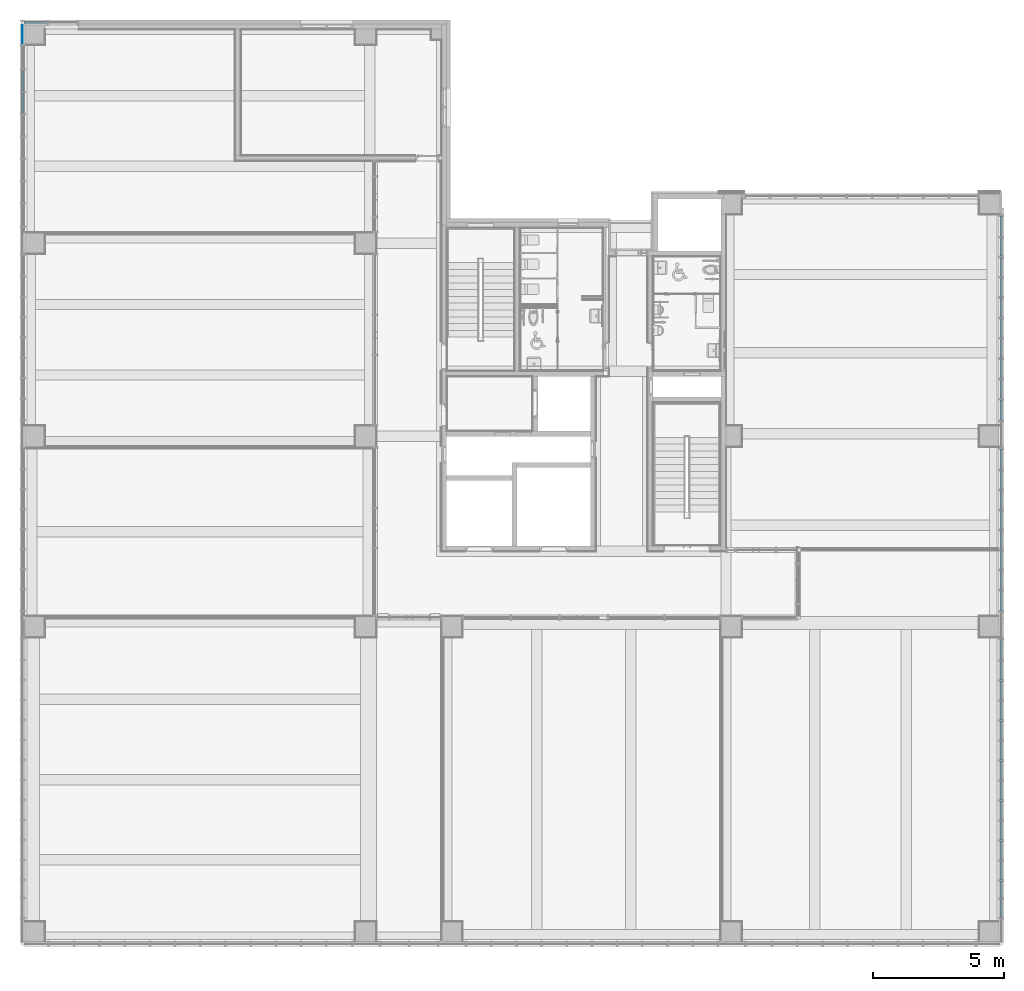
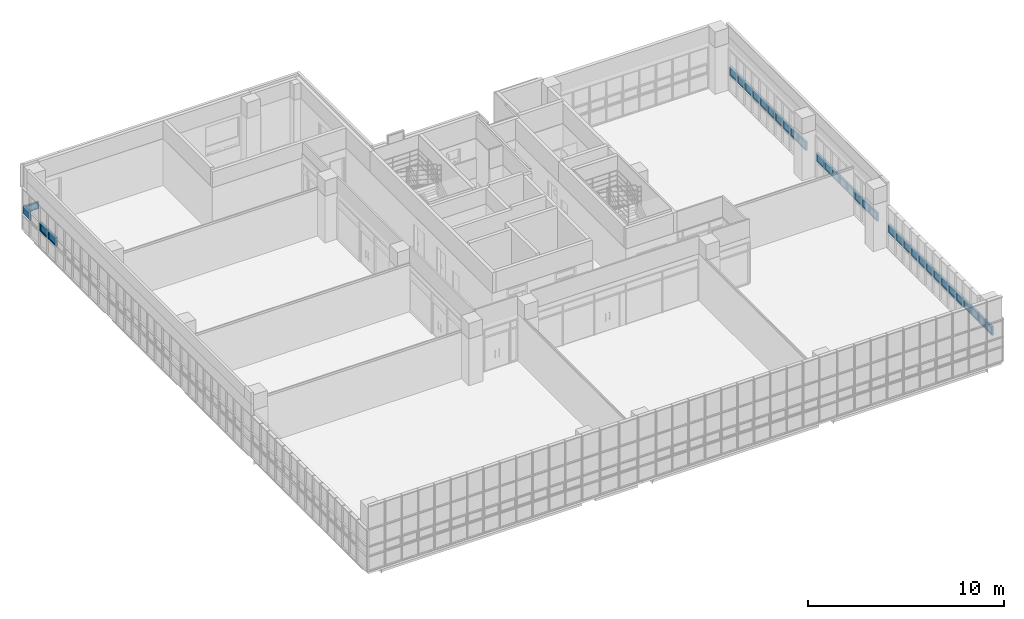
# One storey, part 42 of 76: 36 plates, 3 elements without a shape of their own.
"""IFC2X3 building model written with IfcOpenShell, lengths in millimetres."""

from ifc_helpers import new_model, entity, si_unit, converted_unit, derived_unit, direction, frame, origin, origin_2d_with_axis, place, context, subcontext, project, spatial, polyline, rectangle, outline, extrude, source, transform, mapped, material, material_list, type_object, type_shapes, element, aggregate, save


model = new_model("IFC2X3")

# Units and contexts
model_context = context("Model", 3, precision=0.01, world=origin(), true_north=direction((6.123031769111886e-17, 1.0)))
body_context = subcontext(model_context, "Body", "Model", "MODEL_VIEW")
ifc_project = project(units=[si_unit("LENGTHUNIT", "METRE", prefix="MILLI"), si_unit("AREAUNIT", "SQUARE_METRE"), si_unit("VOLUMEUNIT", "CUBIC_METRE"), converted_unit("PLANEANGLEUNIT", "DEGREE", entity("IfcRatioMeasure", 0.017453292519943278), si_unit("PLANEANGLEUNIT", "RADIAN"), dimensions=[0, 0, 0, 0, 0, 0, 0]), si_unit("MASSUNIT", "GRAM", prefix="KILO"), derived_unit("MASSDENSITYUNIT", [(si_unit("MASSUNIT", "GRAM", prefix="KILO"), 1), (si_unit("LENGTHUNIT", "METRE"), -3)]), derived_unit("MOMENTOFINERTIAUNIT", [(si_unit("LENGTHUNIT", "METRE"), 4)]), si_unit("TIMEUNIT", "SECOND"), si_unit("FREQUENCYUNIT", "HERTZ"), si_unit("THERMODYNAMICTEMPERATUREUNIT", "DEGREE_CELSIUS"), derived_unit("THERMALTRANSMITTANCEUNIT", [(si_unit("MASSUNIT", "GRAM", prefix="KILO"), 1), (si_unit("THERMODYNAMICTEMPERATUREUNIT", "KELVIN"), -1), (si_unit("TIMEUNIT", "SECOND"), -3)]), derived_unit("VOLUMETRICFLOWRATEUNIT", [(si_unit("LENGTHUNIT", "METRE"), 3), (si_unit("TIMEUNIT", "SECOND"), -1)]), derived_unit("MASSFLOWRATEUNIT", [(si_unit("MASSUNIT", "GRAM", prefix="KILO"), 1), (si_unit("TIMEUNIT", "SECOND"), -1)]), derived_unit("ROTATIONALFREQUENCYUNIT", [(si_unit("TIMEUNIT", "SECOND"), -1)]), si_unit("ELECTRICCURRENTUNIT", "AMPERE"), si_unit("ELECTRICVOLTAGEUNIT", "VOLT"), si_unit("POWERUNIT", "WATT"), si_unit("FORCEUNIT", "NEWTON", prefix="KILO"), si_unit("ILLUMINANCEUNIT", "LUX"), si_unit("LUMINOUSFLUXUNIT", "LUMEN"), si_unit("LUMINOUSINTENSITYUNIT", "CANDELA"), derived_unit("USERDEFINED", [(si_unit("MASSUNIT", "GRAM", prefix="KILO"), -1), (si_unit("LENGTHUNIT", "METRE"), -2), (si_unit("TIMEUNIT", "SECOND"), 3), (si_unit("LUMINOUSFLUXUNIT", "LUMEN"), 1)]), derived_unit("SOUNDPOWERUNIT", [(si_unit("MASSUNIT", "GRAM", prefix="KILO"), 1), (si_unit("LENGTHUNIT", "METRE"), 2), (si_unit("TIMEUNIT", "SECOND"), -3)]), derived_unit("SOUNDPRESSUREUNIT", [(si_unit("MASSUNIT", "GRAM", prefix="KILO"), 1), (si_unit("LENGTHUNIT", "METRE"), -1), (si_unit("TIMEUNIT", "SECOND"), -2)]), derived_unit("LINEARVELOCITYUNIT", [(si_unit("LENGTHUNIT", "METRE"), 1), (si_unit("TIMEUNIT", "SECOND"), -1)]), si_unit("PRESSUREUNIT", "PASCAL"), derived_unit("USERDEFINED", [(si_unit("LENGTHUNIT", "METRE"), -2), (si_unit("MASSUNIT", "GRAM", prefix="KILO"), 1), (si_unit("TIMEUNIT", "SECOND"), -2)]), derived_unit("LINEARFORCEUNIT", [(si_unit("MASSUNIT", "GRAM", prefix="KILO"), 1), (si_unit("LENGTHUNIT", "METRE"), 1), (si_unit("TIMEUNIT", "SECOND"), -2), (si_unit("LENGTHUNIT", "METRE"), -1)]), derived_unit("PLANARFORCEUNIT", [(si_unit("MASSUNIT", "GRAM", prefix="KILO"), 1), (si_unit("LENGTHUNIT", "METRE"), 1), (si_unit("TIMEUNIT", "SECOND"), -2), (si_unit("LENGTHUNIT", "METRE"), -2)])], contexts=[model_context])

# Site, building, storey
site_placement = place(None, frame((-14167.972527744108, -657.2125860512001, 0.0)))
site = spatial("IfcSite", under=ifc_project, at=site_placement, Name="Default", CompositionType="ELEMENT")
building_placement = place(site_placement, origin())
building = spatial("IfcBuilding", under=site, at=building_placement, Name="Sample Building", CompositionType="ELEMENT")
storey_placement = place(building_placement, frame((0.0, 0.0, 9300.0)))
storey = spatial("IfcBuildingStorey", under=building, at=storey_placement, Name="지상 3층", CompositionType="ELEMENT", Elevation=9300.000000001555)

# Curtain wall, plate
curtain_wall_type = type_object("IfcCurtainWallType", Name="커튼월:CW112-스테인리스 스틸 커튼월", PredefinedType="NOTDEFINED")
curtain_wall_1_placement = place(storey_placement, frame((0.0, 0.0, -9300.0)))
curtain_wall_1 = element("IfcCurtainWall", 1, at=curtain_wall_1_placement, inside=storey, type_object=curtain_wall_type, Name="커튼월:CW112-스테인리스 스틸 커튼월", ObjectType="커튼월:CW112-스테인리스 스틸 커튼월")
ifc_material_1 = material(Name="KBIMS-유리")
ifc_material_2 = material(Name="KBIMS-알루미늄")
ifc_material_list_1 = material_list([ifc_material_1, ifc_material_2])
ifc_material_list_2 = material_list([ifc_material_1, ifc_material_2])
plate_type_1 = type_object("IfcPlateType", Name="CW410-프로젝트 창:CW410-프로젝트 창 (하부개폐)", PredefinedType="CURTAIN_PANEL", material=ifc_material_list_2)
shared_shape_1 = source(origin(), body_context, "Body", "SweptSolid", [
    extrude(rectangle(XDim=23.999999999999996, YDim=774.6836271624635, at=origin_2d_with_axis()), frame((0.0, 0.04999999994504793, 50.0), z_axis=(0.0, 0.0, 1.0), x_axis=(0.0, 1.0, 0.0)), (0.0, 0.0, 1.0), 349.9999999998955),
    extrude(outline(polyline([(-437.3418135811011, -225.0), (437.3418135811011, -225.0), (437.3418135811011, 225.0), (-437.3418135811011, 225.0), (-437.3418135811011, -225.0)]), holes=[polyline([(-387.34181358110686, -175.0), (-387.3418135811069, 175.0), (387.34181358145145, 175.0), (387.34181358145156, -175.0), (-387.34181358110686, -175.0)])]), frame((0.0, -49.95000000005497, 225.0), z_axis=(0.0, 1.0, 0.0), x_axis=(1.0, 0.0, 0.0)), (0.0, 0.0, 1.0), 99.99999999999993),
])
type_shapes(plate_type_1, [shared_shape_1])
plate_1_placement = place(curtain_wall_1_placement, frame((14505.314268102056, 35807.1622951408, 10305.0)))
plate_1 = element("IfcPlate", 2, at=plate_1_placement, type_object=plate_type_1, material=ifc_material_list_1, Name="CW410-프로젝트 창:CW410-프로젝트 창 (하부개폐)", ObjectType="CW410-프로젝트 창:CW410-프로젝트 창 (하부개폐)", context=body_context, shape_type="MappedRepresentation", body=[
    mapped(shared_shape_1, transform((0.0, 0.0, 0.0), scale=1.0)),
])
aggregate(curtain_wall_1, [plate_1])

# Curtain wall, plates
curtain_wall_2_placement = place(storey_placement, frame((0.0, 0.0, -9300.0)))
curtain_wall_2 = element("IfcCurtainWall", 3, at=curtain_wall_2_placement, inside=storey, type_object=curtain_wall_type, Name="커튼월:CW112-스테인리스 스틸 커튼월", ObjectType="커튼월:CW112-스테인리스 스틸 커튼월")
ifc_material_3 = material(Name="KBIMS-로이유리(코팅)")
plate_type_2 = type_object("IfcPlateType", Name="CW300-THK24.Low-e coating glass:CW300-THK24.Low-e coating glass", PredefinedType="CURTAIN_PANEL", material=ifc_material_3)
shared_shape_2 = source(origin(), body_context, "Body", "SweptSolid", [
    extrude(rectangle(XDim=778.6554851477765, YDim=24.000000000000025, at=origin_2d_with_axis()), frame((0.0, 0.0, 0.0), z_axis=(0.0, 0.0, 1.0), x_axis=(-1.0, 0.0, 0.0)), (0.0, 0.0, 1.0), 549.9999999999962),
])
type_shapes(plate_type_2, [shared_shape_2])
plate_2_placement = place(curtain_wall_2_placement, frame((14018.58790484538, 35368.14544966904, 10355.0), z_axis=(0.0, 0.0, 1.0), x_axis=(0.0, -1.0, 0.0)))
plate_2 = element("IfcPlate", 4, at=plate_2_placement, type_object=plate_type_2, material=ifc_material_3, Name="CW300-THK24.Low-e coating glass:CW300-THK24.Low-e coating glass", ObjectType="CW300-THK24.Low-e coating glass:CW300-THK24.Low-e coating glass", context=body_context, shape_type="MappedRepresentation", body=[
    mapped(shared_shape_2, transform((0.0, 0.0, 0.0), scale=1.0)),
])
ifc_material_list_3 = material_list([ifc_material_1, ifc_material_2])
ifc_material_list_4 = material_list([ifc_material_1, ifc_material_2])
plate_type_3 = type_object("IfcPlateType", Name="CW410-프로젝트 창:CW410-프로젝트 창 (하부개폐)", PredefinedType="CURTAIN_PANEL", material=ifc_material_list_4)
shared_shape_3 = source(origin(), body_context, "Body", "SweptSolid", [
    extrude(rectangle(XDim=704.0000000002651, YDim=23.999999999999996, at=origin_2d_with_axis()), frame((0.0, -0.04999999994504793, 50.0), z_axis=(0.0, 0.0, 1.0), x_axis=(-1.0, 0.0, 0.0)), (0.0, 0.0, 1.0), 450.0000000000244),
    extrude(outline(polyline([(-402.0, -275.0), (402.0, -275.0), (402.0, 275.0), (-402.0, 275.0), (-402.0, -275.0)]), holes=[polyline([(-352.0, -225.0), (-352.0, 225.0), (352.0, 225.0), (352.0, -225.0), (-352.0, -225.0)])]), frame((0.0, -50.04999999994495, 275.0), z_axis=(0.0, 1.0, 0.0), x_axis=(1.0, 0.0, 0.0)), (0.0, 0.0, 1.0), 99.99999999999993),
])
type_shapes(plate_type_3, [shared_shape_3])
plate_3_placement = place(curtain_wall_2_placement, frame((14018.587904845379, 33582.81770709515, 10355.0), z_axis=(0.0, 0.0, 1.0), x_axis=(0.0, -1.0, 0.0)))
plate_3 = element("IfcPlate", 5, at=plate_3_placement, type_object=plate_type_3, material=ifc_material_list_3, Name="CW410-프로젝트 창:CW410-프로젝트 창 (하부개폐)", ObjectType="CW410-프로젝트 창:CW410-프로젝트 창 (하부개폐)", context=body_context, shape_type="MappedRepresentation", body=[
    mapped(shared_shape_3, transform((0.0, 0.0, 0.0), scale=1.0)),
])
ifc_material_list_5 = material_list([ifc_material_1, ifc_material_2])
plate_4_placement = place(curtain_wall_2_placement, frame((14018.587904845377, 32728.817707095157, 10355.0), z_axis=(0.0, 0.0, 1.0), x_axis=(0.0, -1.0, 0.0)))
plate_4 = element("IfcPlate", 6, at=plate_4_placement, type_object=plate_type_3, material=ifc_material_list_5, Name="CW410-프로젝트 창:CW410-프로젝트 창 (하부개폐)", ObjectType="CW410-프로젝트 창:CW410-프로젝트 창 (하부개폐)", context=body_context, shape_type="MappedRepresentation", body=[
    mapped(shared_shape_3, transform((0.0, 0.0, 0.0), scale=1.0)),
])
aggregate(curtain_wall_2, [plate_2, plate_3, plate_4])

curtain_wall_3_placement = place(storey_placement, frame((0.0, 0.0, -9300.0)))
curtain_wall_3 = element("IfcCurtainWall", 7, at=curtain_wall_3_placement, inside=storey, type_object=curtain_wall_type, Name="커튼월:CW112-스테인리스 스틸 커튼월", ObjectType="커튼월:CW112-스테인리스 스틸 커튼월")
ifc_material_list_6 = material_list([ifc_material_1, ifc_material_2])
ifc_material_list_7 = material_list([ifc_material_1, ifc_material_2])
plate_type_4 = type_object("IfcPlateType", Name="CW410-프로젝트 창:CW410-프로젝트 창 (하부개폐)", PredefinedType="CURTAIN_PANEL", material=ifc_material_list_7)
shared_shape_4 = source(origin(), body_context, "Body", "SweptSolid", [
    extrude(rectangle(XDim=23.999999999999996, YDim=683.3946888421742, at=origin_2d_with_axis()), frame((0.0, 0.04999999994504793, 50.0), z_axis=(0.0, 0.0, 1.0), x_axis=(0.0, 1.0, 0.0)), (0.0, 0.0, 1.0), 450.0000000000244),
    extrude(outline(polyline([(-391.6973444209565, -275.0), (391.6973444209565, -275.0), (391.6973444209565, 275.0), (-391.6973444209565, 275.0), (-391.6973444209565, -275.0)]), holes=[polyline([(-341.6973444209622, -225.0), (-341.6973444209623, 225.0), (341.6973444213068, 225.0), (341.6973444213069, -225.0), (-341.6973444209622, -225.0)])]), frame((0.0, -49.95000000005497, 275.0), z_axis=(0.0, 1.0, 0.0), x_axis=(1.0, 0.0, 0.0)), (0.0, 0.0, 1.0), 99.99999999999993),
])
type_shapes(plate_type_4, [shared_shape_4])
plate_5_placement = place(curtain_wall_3_placement, frame((51517.96382893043, 27997.515051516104, 10355.0), z_axis=(0.0, 0.0, 1.0), x_axis=(0.0, -1.0, 0.0)))
plate_5 = element("IfcPlate", 8, at=plate_5_placement, type_object=plate_type_4, material=ifc_material_list_6, Name="CW410-프로젝트 창:CW410-프로젝트 창 (하부개폐)", ObjectType="CW410-프로젝트 창:CW410-프로젝트 창 (하부개폐)", context=body_context, shape_type="MappedRepresentation", body=[
    mapped(shared_shape_4, transform((0.0, 0.0, 0.0), scale=1.0)),
])
ifc_material_list_8 = material_list([ifc_material_1, ifc_material_2])
ifc_material_list_9 = material_list([ifc_material_1, ifc_material_2])
plate_type_5 = type_object("IfcPlateType", Name="CW410-프로젝트 창:CW410-프로젝트 창 (하부개폐)", PredefinedType="CURTAIN_PANEL", material=ifc_material_list_9)
shared_shape_5 = source(origin(), body_context, "Body", "SweptSolid", [
    extrude(rectangle(XDim=23.999999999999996, YDim=600.0000000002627, at=origin_2d_with_axis()), frame((0.0, 0.04999999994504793, 50.0), z_axis=(0.0, 0.0, 1.0), x_axis=(0.0, 1.0, 0.0)), (0.0, 0.0, 1.0), 450.0000000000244),
    extrude(outline(polyline([(-350.0, -275.0), (350.0, -275.0), (350.0, 275.0), (-350.0, 275.0), (-350.0, -275.0)]), holes=[polyline([(-300.0, -225.0), (-300.0, 225.0), (300.0, 225.0), (300.0, -225.0), (-300.0, -225.0)])]), frame((0.0, -49.95000000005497, 275.0), z_axis=(0.0, 1.0, 0.0), x_axis=(1.0, 0.0, 0.0)), (0.0, 0.0, 1.0), 99.99999999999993),
])
type_shapes(plate_type_5, [shared_shape_5])
plate_6_placement = place(curtain_wall_3_placement, frame((51517.96382893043, 27205.817707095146, 10355.0), z_axis=(0.0, 0.0, 1.0), x_axis=(0.0, -1.0, 0.0)))
plate_6 = element("IfcPlate", 9, at=plate_6_placement, type_object=plate_type_5, material=ifc_material_list_8, Name="CW410-프로젝트 창:CW410-프로젝트 창 (하부개폐)", ObjectType="CW410-프로젝트 창:CW410-프로젝트 창 (하부개폐)", context=body_context, shape_type="MappedRepresentation", body=[
    mapped(shared_shape_5, transform((0.0, 0.0, 0.0), scale=1.0)),
])
ifc_material_list_10 = material_list([ifc_material_1, ifc_material_2])
ifc_material_list_11 = material_list([ifc_material_1, ifc_material_2])
plate_type_6 = type_object("IfcPlateType", Name="CW410-프로젝트 창:CW410-프로젝트 창 (하부개폐)", PredefinedType="CURTAIN_PANEL", material=ifc_material_list_11)
shared_shape_6 = source(origin(), body_context, "Body", "SweptSolid", [
    extrude(rectangle(XDim=23.999999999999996, YDim=629.0000000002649, at=origin_2d_with_axis()), frame((0.0, 0.04999999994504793, 50.0), z_axis=(0.0, 0.0, 1.0), x_axis=(0.0, 1.0, 0.0)), (0.0, 0.0, 1.0), 450.0000000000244),
    extrude(outline(polyline([(-364.5000000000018, -275.0), (364.5000000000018, -275.0), (364.5000000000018, 275.0), (-364.5000000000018, 275.0), (-364.5000000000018, -275.0)]), holes=[polyline([(-314.50000000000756, -225.0), (-314.5000000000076, 225.0), (314.5000000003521, 225.0), (314.50000000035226, -225.0), (-314.50000000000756, -225.0)])]), frame((0.0, -49.95000000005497, 275.0), z_axis=(0.0, 1.0, 0.0), x_axis=(1.0, 0.0, 0.0)), (0.0, 0.0, 1.0), 99.99999999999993),
])
type_shapes(plate_type_6, [shared_shape_6])
plate_7_placement = place(curtain_wall_3_placement, frame((51517.96382893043, 26441.317707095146, 10355.0), z_axis=(0.0, 0.0, 1.0), x_axis=(0.0, -1.0, 0.0)))
plate_7 = element("IfcPlate", 10, at=plate_7_placement, type_object=plate_type_6, material=ifc_material_list_10, Name="CW410-프로젝트 창:CW410-프로젝트 창 (하부개폐)", ObjectType="CW410-프로젝트 창:CW410-프로젝트 창 (하부개폐)", context=body_context, shape_type="MappedRepresentation", body=[
    mapped(shared_shape_6, transform((0.0, 0.0, 0.0), scale=1.0)),
])
ifc_material_list_12 = material_list([ifc_material_1, ifc_material_2])
plate_8_placement = place(curtain_wall_3_placement, frame((51517.96382893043, 25662.31770709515, 10355.0), z_axis=(0.0, 0.0, 1.0), x_axis=(0.0, -1.0, 0.0)))
plate_8 = element("IfcPlate", 11, at=plate_8_placement, type_object=plate_type_6, material=ifc_material_list_12, Name="CW410-프로젝트 창:CW410-프로젝트 창 (하부개폐)", ObjectType="CW410-프로젝트 창:CW410-프로젝트 창 (하부개폐)", context=body_context, shape_type="MappedRepresentation", body=[
    mapped(shared_shape_6, transform((0.0, 0.0, 0.0), scale=1.0)),
])
ifc_material_list_13 = material_list([ifc_material_1, ifc_material_2])
plate_9_placement = place(curtain_wall_3_placement, frame((51517.96382893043, 24883.317707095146, 10355.0), z_axis=(0.0, 0.0, 1.0), x_axis=(0.0, -1.0, 0.0)))
plate_9 = element("IfcPlate", 12, at=plate_9_placement, type_object=plate_type_6, material=ifc_material_list_13, Name="CW410-프로젝트 창:CW410-프로젝트 창 (하부개폐)", ObjectType="CW410-프로젝트 창:CW410-프로젝트 창 (하부개폐)", context=body_context, shape_type="MappedRepresentation", body=[
    mapped(shared_shape_6, transform((0.0, 0.0, 0.0), scale=1.0)),
])
ifc_material_list_14 = material_list([ifc_material_1, ifc_material_2])
plate_10_placement = place(curtain_wall_3_placement, frame((51517.96382893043, 24104.31770709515, 10355.0), z_axis=(0.0, 0.0, 1.0), x_axis=(0.0, -1.0, 0.0)))
plate_10 = element("IfcPlate", 13, at=plate_10_placement, type_object=plate_type_6, material=ifc_material_list_14, Name="CW410-프로젝트 창:CW410-프로젝트 창 (하부개폐)", ObjectType="CW410-프로젝트 창:CW410-프로젝트 창 (하부개폐)", context=body_context, shape_type="MappedRepresentation", body=[
    mapped(shared_shape_6, transform((0.0, 0.0, 0.0), scale=1.0)),
])
ifc_material_list_15 = material_list([ifc_material_1, ifc_material_2])
plate_11_placement = place(curtain_wall_3_placement, frame((51517.96382893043, 23325.317707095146, 10355.0), z_axis=(0.0, 0.0, 1.0), x_axis=(0.0, -1.0, 0.0)))
plate_11 = element("IfcPlate", 14, at=plate_11_placement, type_object=plate_type_6, material=ifc_material_list_15, Name="CW410-프로젝트 창:CW410-프로젝트 창 (하부개폐)", ObjectType="CW410-프로젝트 창:CW410-프로젝트 창 (하부개폐)", context=body_context, shape_type="MappedRepresentation", body=[
    mapped(shared_shape_6, transform((0.0, 0.0, 0.0), scale=1.0)),
])
ifc_material_list_16 = material_list([ifc_material_1, ifc_material_2])
plate_12_placement = place(curtain_wall_3_placement, frame((51517.963828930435, 22546.31770709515, 10355.0), z_axis=(0.0, 0.0, 1.0), x_axis=(0.0, -1.0, 0.0)))
plate_12 = element("IfcPlate", 15, at=plate_12_placement, type_object=plate_type_6, material=ifc_material_list_16, Name="CW410-프로젝트 창:CW410-프로젝트 창 (하부개폐)", ObjectType="CW410-프로젝트 창:CW410-프로젝트 창 (하부개폐)", context=body_context, shape_type="MappedRepresentation", body=[
    mapped(shared_shape_6, transform((0.0, 0.0, 0.0), scale=1.0)),
])
ifc_material_list_17 = material_list([ifc_material_1, ifc_material_2])
plate_13_placement = place(curtain_wall_3_placement, frame((51517.963828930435, 21767.317707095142, 10355.0), z_axis=(0.0, 0.0, 1.0), x_axis=(0.0, -1.0, 0.0)))
plate_13 = element("IfcPlate", 16, at=plate_13_placement, type_object=plate_type_6, material=ifc_material_list_17, Name="CW410-프로젝트 창:CW410-프로젝트 창 (하부개폐)", ObjectType="CW410-프로젝트 창:CW410-프로젝트 창 (하부개폐)", context=body_context, shape_type="MappedRepresentation", body=[
    mapped(shared_shape_6, transform((0.0, 0.0, 0.0), scale=1.0)),
])
ifc_material_list_18 = material_list([ifc_material_1, ifc_material_2])
ifc_material_list_19 = material_list([ifc_material_1, ifc_material_2])
plate_type_7 = type_object("IfcPlateType", Name="CW410-프로젝트 창:CW410-프로젝트 창 (하부개폐)", PredefinedType="CURTAIN_PANEL", material=ifc_material_list_19)
shared_shape_7 = source(origin(), body_context, "Body", "SweptSolid", [
    extrude(rectangle(XDim=23.999999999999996, YDim=689.0000000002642, at=origin_2d_with_axis()), frame((0.0, 0.04999999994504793, 50.0), z_axis=(0.0, 0.0, 1.0), x_axis=(0.0, 1.0, 0.0)), (0.0, 0.0, 1.0), 450.0000000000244),
    extrude(outline(polyline([(-394.5000000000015, -275.0), (394.5000000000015, -275.0), (394.5000000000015, 275.0), (-394.5000000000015, 275.0), (-394.5000000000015, -275.0)]), holes=[polyline([(-344.5000000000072, -225.0), (-344.5000000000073, 225.0), (344.5000000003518, 225.0), (344.5000000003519, -225.0), (-344.5000000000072, -225.0)])]), frame((0.0, -49.95000000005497, 275.0), z_axis=(0.0, 1.0, 0.0), x_axis=(1.0, 0.0, 0.0)), (0.0, 0.0, 1.0), 99.99999999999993),
])
type_shapes(plate_type_7, [shared_shape_7])
plate_14_placement = place(curtain_wall_3_placement, frame((51517.963828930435, 20958.317707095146, 10355.0), z_axis=(0.0, 0.0, 1.0), x_axis=(0.0, -1.0, 0.0)))
plate_14 = element("IfcPlate", 17, at=plate_14_placement, type_object=plate_type_7, material=ifc_material_list_18, Name="CW410-프로젝트 창:CW410-프로젝트 창 (하부개폐)", ObjectType="CW410-프로젝트 창:CW410-프로젝트 창 (하부개폐)", context=body_context, shape_type="MappedRepresentation", body=[
    mapped(shared_shape_7, transform((0.0, 0.0, 0.0), scale=1.0)),
])
ifc_material_list_20 = material_list([ifc_material_1, ifc_material_2])
ifc_material_list_21 = material_list([ifc_material_1, ifc_material_2])
plate_type_8 = type_object("IfcPlateType", Name="CW410-프로젝트 창:CW410-프로젝트 창 (하부개폐)", PredefinedType="CURTAIN_PANEL", material=ifc_material_list_21)
shared_shape_8 = source(origin(), body_context, "Body", "SweptSolid", [
    extrude(rectangle(XDim=23.999999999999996, YDim=676.0000000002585, at=origin_2d_with_axis()), frame((0.0, 0.04999999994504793, 50.0), z_axis=(0.0, 0.0, 1.0), x_axis=(0.0, 1.0, 0.0)), (0.0, 0.0, 1.0), 450.0000000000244),
    extrude(outline(polyline([(-388.0, -275.0), (388.0, -275.0), (388.0, 275.0), (-388.0, 275.0), (-388.0, -275.0)]), holes=[polyline([(-338.0, -225.0), (-338.0, 225.0), (338.0, 225.0), (338.0, -225.0), (-338.0, -225.0)])]), frame((0.0, -49.95000000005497, 275.0), z_axis=(0.0, 1.0, 0.0), x_axis=(1.0, 0.0, 0.0)), (0.0, 0.0, 1.0), 99.99999999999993),
])
type_shapes(plate_type_8, [shared_shape_8])
plate_15_placement = place(curtain_wall_3_placement, frame((51517.963828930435, 19075.817707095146, 10355.0), z_axis=(0.0, 0.0, 1.0), x_axis=(0.0, -1.0, 0.0)))
plate_15 = element("IfcPlate", 18, at=plate_15_placement, type_object=plate_type_8, material=ifc_material_list_20, Name="CW410-프로젝트 창:CW410-프로젝트 창 (하부개폐)", ObjectType="CW410-프로젝트 창:CW410-프로젝트 창 (하부개폐)", context=body_context, shape_type="MappedRepresentation", body=[
    mapped(shared_shape_8, transform((0.0, 0.0, 0.0), scale=1.0)),
])
ifc_material_list_22 = material_list([ifc_material_1, ifc_material_2])
plate_16_placement = place(curtain_wall_3_placement, frame((51517.96382893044, 13653.817707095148, 10355.0), z_axis=(0.0, 0.0, 1.0), x_axis=(0.0, -1.0, 0.0)))
plate_16 = element("IfcPlate", 19, at=plate_16_placement, type_object=plate_type_8, material=ifc_material_list_22, Name="CW410-프로젝트 창:CW410-프로젝트 창 (하부개폐)", ObjectType="CW410-프로젝트 창:CW410-프로젝트 창 (하부개폐)", context=body_context, shape_type="MappedRepresentation", body=[
    mapped(shared_shape_8, transform((0.0, 0.0, 0.0), scale=1.0)),
])
ifc_material_list_23 = material_list([ifc_material_1, ifc_material_2])
plate_17_placement = place(curtain_wall_3_placement, frame((51517.96382893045, 11777.81770709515, 10355.0), z_axis=(0.0, 0.0, 1.0), x_axis=(0.0, -1.0, 0.0)))
plate_17 = element("IfcPlate", 20, at=plate_17_placement, type_object=plate_type_8, material=ifc_material_list_23, Name="CW410-프로젝트 창:CW410-프로젝트 창 (하부개폐)", ObjectType="CW410-프로젝트 창:CW410-프로젝트 창 (하부개폐)", context=body_context, shape_type="MappedRepresentation", body=[
    mapped(shared_shape_8, transform((0.0, 0.0, 0.0), scale=1.0)),
])
ifc_material_list_24 = material_list([ifc_material_1, ifc_material_2])
ifc_material_list_25 = material_list([ifc_material_1, ifc_material_2])
plate_type_9 = type_object("IfcPlateType", Name="CW410-프로젝트 창:CW410-프로젝트 창 (하부개폐)", PredefinedType="CURTAIN_PANEL", material=ifc_material_list_25)
shared_shape_9 = source(origin(), body_context, "Body", "SweptSolid", [
    extrude(rectangle(XDim=23.999999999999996, YDim=616.0000000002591, at=origin_2d_with_axis()), frame((0.0, 0.04999999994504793, 50.0), z_axis=(0.0, 0.0, 1.0), x_axis=(0.0, 1.0, 0.0)), (0.0, 0.0, 1.0), 450.0000000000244),
    extrude(outline(polyline([(-358.0, -275.0), (358.0, -275.0), (358.0, 275.0), (-358.0, 275.0), (-358.0, -275.0)]), holes=[polyline([(-308.0, -225.0), (-308.0, 225.0), (308.0, 225.0), (308.0, -225.0), (-308.0, -225.0)])]), frame((0.0, -49.95000000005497, 275.0), z_axis=(0.0, 1.0, 0.0), x_axis=(1.0, 0.0, 0.0)), (0.0, 0.0, 1.0), 99.99999999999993),
])
type_shapes(plate_type_9, [shared_shape_9])
plate_18_placement = place(curtain_wall_3_placement, frame((51517.963828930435, 18279.817707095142, 10355.0), z_axis=(0.0, 0.0, 1.0), x_axis=(0.0, -1.0, 0.0)))
plate_18 = element("IfcPlate", 21, at=plate_18_placement, type_object=plate_type_9, material=ifc_material_list_24, Name="CW410-프로젝트 창:CW410-프로젝트 창 (하부개폐)", ObjectType="CW410-프로젝트 창:CW410-프로젝트 창 (하부개폐)", context=body_context, shape_type="MappedRepresentation", body=[
    mapped(shared_shape_9, transform((0.0, 0.0, 0.0), scale=1.0)),
])
ifc_material_list_26 = material_list([ifc_material_1, ifc_material_2])
plate_19_placement = place(curtain_wall_3_placement, frame((51517.963828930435, 17513.817707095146, 10355.0), z_axis=(0.0, 0.0, 1.0), x_axis=(0.0, -1.0, 0.0)))
plate_19 = element("IfcPlate", 22, at=plate_19_placement, type_object=plate_type_9, material=ifc_material_list_26, Name="CW410-프로젝트 창:CW410-프로젝트 창 (하부개폐)", ObjectType="CW410-프로젝트 창:CW410-프로젝트 창 (하부개폐)", context=body_context, shape_type="MappedRepresentation", body=[
    mapped(shared_shape_9, transform((0.0, 0.0, 0.0), scale=1.0)),
])
ifc_material_list_27 = material_list([ifc_material_1, ifc_material_2])
plate_20_placement = place(curtain_wall_3_placement, frame((51517.96382893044, 16747.817707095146, 10355.0), z_axis=(0.0, 0.0, 1.0), x_axis=(0.0, -1.0, 0.0)))
plate_20 = element("IfcPlate", 23, at=plate_20_placement, type_object=plate_type_9, material=ifc_material_list_27, Name="CW410-프로젝트 창:CW410-프로젝트 창 (하부개폐)", ObjectType="CW410-프로젝트 창:CW410-프로젝트 창 (하부개폐)", context=body_context, shape_type="MappedRepresentation", body=[
    mapped(shared_shape_9, transform((0.0, 0.0, 0.0), scale=1.0)),
])
ifc_material_list_28 = material_list([ifc_material_1, ifc_material_2])
plate_21_placement = place(curtain_wall_3_placement, frame((51517.96382893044, 15981.817707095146, 10355.0), z_axis=(0.0, 0.0, 1.0), x_axis=(0.0, -1.0, 0.0)))
plate_21 = element("IfcPlate", 24, at=plate_21_placement, type_object=plate_type_9, material=ifc_material_list_28, Name="CW410-프로젝트 창:CW410-프로젝트 창 (하부개폐)", ObjectType="CW410-프로젝트 창:CW410-프로젝트 창 (하부개폐)", context=body_context, shape_type="MappedRepresentation", body=[
    mapped(shared_shape_9, transform((0.0, 0.0, 0.0), scale=1.0)),
])
ifc_material_list_29 = material_list([ifc_material_1, ifc_material_2])
plate_22_placement = place(curtain_wall_3_placement, frame((51517.96382893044, 15215.817707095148, 10355.0), z_axis=(0.0, 0.0, 1.0), x_axis=(0.0, -1.0, 0.0)))
plate_22 = element("IfcPlate", 25, at=plate_22_placement, type_object=plate_type_9, material=ifc_material_list_29, Name="CW410-프로젝트 창:CW410-프로젝트 창 (하부개폐)", ObjectType="CW410-프로젝트 창:CW410-프로젝트 창 (하부개폐)", context=body_context, shape_type="MappedRepresentation", body=[
    mapped(shared_shape_9, transform((0.0, 0.0, 0.0), scale=1.0)),
])
ifc_material_list_30 = material_list([ifc_material_1, ifc_material_2])
plate_23_placement = place(curtain_wall_3_placement, frame((51517.96382893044, 14449.817707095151, 10355.0), z_axis=(0.0, 0.0, 1.0), x_axis=(0.0, -1.0, 0.0)))
plate_23 = element("IfcPlate", 26, at=plate_23_placement, type_object=plate_type_9, material=ifc_material_list_30, Name="CW410-프로젝트 창:CW410-프로젝트 창 (하부개폐)", ObjectType="CW410-프로젝트 창:CW410-프로젝트 창 (하부개폐)", context=body_context, shape_type="MappedRepresentation", body=[
    mapped(shared_shape_9, transform((0.0, 0.0, 0.0), scale=1.0)),
])
ifc_material_list_31 = material_list([ifc_material_1, ifc_material_2])
plate_24_placement = place(curtain_wall_3_placement, frame((51517.96382893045, 10981.817707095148, 10355.0), z_axis=(0.0, 0.0, 1.0), x_axis=(0.0, -1.0, 0.0)))
plate_24 = element("IfcPlate", 27, at=plate_24_placement, type_object=plate_type_9, material=ifc_material_list_31, Name="CW410-프로젝트 창:CW410-프로젝트 창 (하부개폐)", ObjectType="CW410-프로젝트 창:CW410-프로젝트 창 (하부개폐)", context=body_context, shape_type="MappedRepresentation", body=[
    mapped(shared_shape_9, transform((0.0, 0.0, 0.0), scale=1.0)),
])
ifc_material_list_32 = material_list([ifc_material_1, ifc_material_2])
plate_25_placement = place(curtain_wall_3_placement, frame((51517.96382893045, 10215.81770709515, 10355.0), z_axis=(0.0, 0.0, 1.0), x_axis=(0.0, -1.0, 0.0)))
plate_25 = element("IfcPlate", 28, at=plate_25_placement, type_object=plate_type_9, material=ifc_material_list_32, Name="CW410-프로젝트 창:CW410-프로젝트 창 (하부개폐)", ObjectType="CW410-프로젝트 창:CW410-프로젝트 창 (하부개폐)", context=body_context, shape_type="MappedRepresentation", body=[
    mapped(shared_shape_9, transform((0.0, 0.0, 0.0), scale=1.0)),
])
ifc_material_list_33 = material_list([ifc_material_1, ifc_material_2])
plate_26_placement = place(curtain_wall_3_placement, frame((51517.96382893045, 9449.81770709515, 10355.0), z_axis=(0.0, 0.0, 1.0), x_axis=(0.0, -1.0, 0.0)))
plate_26 = element("IfcPlate", 29, at=plate_26_placement, type_object=plate_type_9, material=ifc_material_list_33, Name="CW410-프로젝트 창:CW410-프로젝트 창 (하부개폐)", ObjectType="CW410-프로젝트 창:CW410-프로젝트 창 (하부개폐)", context=body_context, shape_type="MappedRepresentation", body=[
    mapped(shared_shape_9, transform((0.0, 0.0, 0.0), scale=1.0)),
])
ifc_material_list_34 = material_list([ifc_material_1, ifc_material_2])
plate_27_placement = place(curtain_wall_3_placement, frame((51517.96382893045, 8683.817707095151, 10355.0), z_axis=(0.0, 0.0, 1.0), x_axis=(0.0, -1.0, 0.0)))
plate_27 = element("IfcPlate", 30, at=plate_27_placement, type_object=plate_type_9, material=ifc_material_list_34, Name="CW410-프로젝트 창:CW410-프로젝트 창 (하부개폐)", ObjectType="CW410-프로젝트 창:CW410-프로젝트 창 (하부개폐)", context=body_context, shape_type="MappedRepresentation", body=[
    mapped(shared_shape_9, transform((0.0, 0.0, 0.0), scale=1.0)),
])
ifc_material_list_35 = material_list([ifc_material_1, ifc_material_2])
plate_28_placement = place(curtain_wall_3_placement, frame((51517.96382893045, 7917.817707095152, 10355.0), z_axis=(0.0, 0.0, 1.0), x_axis=(0.0, -1.0, 0.0)))
plate_28 = element("IfcPlate", 31, at=plate_28_placement, type_object=plate_type_9, material=ifc_material_list_35, Name="CW410-프로젝트 창:CW410-프로젝트 창 (하부개폐)", ObjectType="CW410-프로젝트 창:CW410-프로젝트 창 (하부개폐)", context=body_context, shape_type="MappedRepresentation", body=[
    mapped(shared_shape_9, transform((0.0, 0.0, 0.0), scale=1.0)),
])
ifc_material_list_36 = material_list([ifc_material_1, ifc_material_2])
plate_29_placement = place(curtain_wall_3_placement, frame((51517.96382893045, 7151.817707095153, 10355.0), z_axis=(0.0, 0.0, 1.0), x_axis=(0.0, -1.0, 0.0)))
plate_29 = element("IfcPlate", 32, at=plate_29_placement, type_object=plate_type_9, material=ifc_material_list_36, Name="CW410-프로젝트 창:CW410-프로젝트 창 (하부개폐)", ObjectType="CW410-프로젝트 창:CW410-프로젝트 창 (하부개폐)", context=body_context, shape_type="MappedRepresentation", body=[
    mapped(shared_shape_9, transform((0.0, 0.0, 0.0), scale=1.0)),
])
ifc_material_list_37 = material_list([ifc_material_1, ifc_material_2])
plate_30_placement = place(curtain_wall_3_placement, frame((51517.96382893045, 6385.817707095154, 10355.0), z_axis=(0.0, 0.0, 1.0), x_axis=(0.0, -1.0, 0.0)))
plate_30 = element("IfcPlate", 33, at=plate_30_placement, type_object=plate_type_9, material=ifc_material_list_37, Name="CW410-프로젝트 창:CW410-프로젝트 창 (하부개폐)", ObjectType="CW410-프로젝트 창:CW410-프로젝트 창 (하부개폐)", context=body_context, shape_type="MappedRepresentation", body=[
    mapped(shared_shape_9, transform((0.0, 0.0, 0.0), scale=1.0)),
])
ifc_material_list_38 = material_list([ifc_material_1, ifc_material_2])
plate_31_placement = place(curtain_wall_3_placement, frame((51517.96382893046, 5619.817707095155, 10355.0), z_axis=(0.0, 0.0, 1.0), x_axis=(0.0, -1.0, 0.0)))
plate_31 = element("IfcPlate", 34, at=plate_31_placement, type_object=plate_type_9, material=ifc_material_list_38, Name="CW410-프로젝트 창:CW410-프로젝트 창 (하부개폐)", ObjectType="CW410-프로젝트 창:CW410-프로젝트 창 (하부개폐)", context=body_context, shape_type="MappedRepresentation", body=[
    mapped(shared_shape_9, transform((0.0, 0.0, 0.0), scale=1.0)),
])
ifc_material_list_39 = material_list([ifc_material_1, ifc_material_2])
plate_32_placement = place(curtain_wall_3_placement, frame((51517.96382893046, 4853.817707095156, 10355.0), z_axis=(0.0, 0.0, 1.0), x_axis=(0.0, -1.0, 0.0)))
plate_32 = element("IfcPlate", 35, at=plate_32_placement, type_object=plate_type_9, material=ifc_material_list_39, Name="CW410-프로젝트 창:CW410-프로젝트 창 (하부개폐)", ObjectType="CW410-프로젝트 창:CW410-프로젝트 창 (하부개폐)", context=body_context, shape_type="MappedRepresentation", body=[
    mapped(shared_shape_9, transform((0.0, 0.0, 0.0), scale=1.0)),
])
ifc_material_list_40 = material_list([ifc_material_1, ifc_material_2])
plate_33_placement = place(curtain_wall_3_placement, frame((51517.96382893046, 4087.8177070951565, 10355.0), z_axis=(0.0, 0.0, 1.0), x_axis=(0.0, -1.0, 0.0)))
plate_33 = element("IfcPlate", 36, at=plate_33_placement, type_object=plate_type_9, material=ifc_material_list_40, Name="CW410-프로젝트 창:CW410-프로젝트 창 (하부개폐)", ObjectType="CW410-프로젝트 창:CW410-프로젝트 창 (하부개폐)", context=body_context, shape_type="MappedRepresentation", body=[
    mapped(shared_shape_9, transform((0.0, 0.0, 0.0), scale=1.0)),
])
ifc_material_list_41 = material_list([ifc_material_1, ifc_material_2])
plate_34_placement = place(curtain_wall_3_placement, frame((51517.96382893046, 3321.8177070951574, 10355.0), z_axis=(0.0, 0.0, 1.0), x_axis=(0.0, -1.0, 0.0)))
plate_34 = element("IfcPlate", 37, at=plate_34_placement, type_object=plate_type_9, material=ifc_material_list_41, Name="CW410-프로젝트 창:CW410-프로젝트 창 (하부개폐)", ObjectType="CW410-프로젝트 창:CW410-프로젝트 창 (하부개폐)", context=body_context, shape_type="MappedRepresentation", body=[
    mapped(shared_shape_9, transform((0.0, 0.0, 0.0), scale=1.0)),
])
ifc_material_list_42 = material_list([ifc_material_1, ifc_material_2])
ifc_material_list_43 = material_list([ifc_material_1, ifc_material_2])
plate_type_10 = type_object("IfcPlateType", Name="CW410-프로젝트 창:CW410-프로젝트 창 (하부개폐)", PredefinedType="CURTAIN_PANEL", material=ifc_material_list_43)
shared_shape_10 = source(origin(), body_context, "Body", "SweptSolid", [
    extrude(rectangle(XDim=23.999999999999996, YDim=542.000000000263, at=origin_2d_with_axis()), frame((0.0, 0.04999999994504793, 50.0), z_axis=(0.0, 0.0, 1.0), x_axis=(0.0, 1.0, 0.0)), (0.0, 0.0, 1.0), 450.0000000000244),
    extrude(outline(polyline([(-321.0, -275.0), (321.0, -275.0), (321.0, 275.0), (-321.0, 275.0), (-321.0, -275.0)]), holes=[polyline([(-271.0, -225.0), (-271.0, 225.0), (271.0, 225.0), (271.0, -225.0), (-271.0, -225.0)])]), frame((0.0, -49.95000000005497, 275.0), z_axis=(0.0, 1.0, 0.0), x_axis=(1.0, 0.0, 0.0)), (0.0, 0.0, 1.0), 99.99999999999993),
])
type_shapes(plate_type_10, [shared_shape_10])
plate_35_placement = place(curtain_wall_3_placement, frame((51517.96382893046, 2592.8177070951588, 10355.0), z_axis=(0.0, 0.0, 1.0), x_axis=(0.0, -1.0, 0.0)))
plate_35 = element("IfcPlate", 38, at=plate_35_placement, type_object=plate_type_10, material=ifc_material_list_42, Name="CW410-프로젝트 창:CW410-프로젝트 창 (하부개폐)", ObjectType="CW410-프로젝트 창:CW410-프로젝트 창 (하부개폐)", context=body_context, shape_type="MappedRepresentation", body=[
    mapped(shared_shape_10, transform((0.0, 0.0, 0.0), scale=1.0)),
])
ifc_material_list_44 = material_list([ifc_material_1, ifc_material_2])
ifc_material_list_45 = material_list([ifc_material_1, ifc_material_2])
plate_type_11 = type_object("IfcPlateType", Name="CW410-프로젝트 창:CW410-프로젝트 창 (하부개폐)", PredefinedType="CURTAIN_PANEL", material=ifc_material_list_45)
shared_shape_11 = source(origin(), body_context, "Body", "SweptSolid", [
    extrude(rectangle(XDim=602.000000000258, YDim=23.999999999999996, at=origin_2d_with_axis()), frame((0.0, -0.04999999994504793, 50.0), z_axis=(0.0, 0.0, 1.0), x_axis=(-1.0, 0.0, 0.0)), (0.0, 0.0, 1.0), 450.0000000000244),
    extrude(outline(polyline([(-351.0, -275.0), (351.0, -275.0), (351.0, 275.0), (-351.0, 275.0), (-351.0, -275.0)]), holes=[polyline([(-301.0, -225.0), (-301.0, 225.0), (301.0, 225.0), (301.0, -225.0), (-301.0, -225.0)])]), frame((0.0, -50.04999999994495, 275.0), z_axis=(0.0, 1.0, 0.0), x_axis=(1.0, 0.0, 0.0)), (0.0, 0.0, 1.0), 99.99999999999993),
])
type_shapes(plate_type_11, [shared_shape_11])
plate_36_placement = place(curtain_wall_3_placement, frame((51517.96382893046, 1870.8177070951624, 10355.0), z_axis=(0.0, 0.0, 1.0), x_axis=(0.0, -1.0, 0.0)))
plate_36 = element("IfcPlate", 39, at=plate_36_placement, type_object=plate_type_11, material=ifc_material_list_44, Name="CW410-프로젝트 창:CW410-프로젝트 창 (하부개폐)", ObjectType="CW410-프로젝트 창:CW410-프로젝트 창 (하부개폐)", context=body_context, shape_type="MappedRepresentation", body=[
    mapped(shared_shape_11, transform((0.0, 0.0, 0.0), scale=1.0)),
])
aggregate(curtain_wall_3, [plate_5, plate_6, plate_7, plate_8, plate_9, plate_10, plate_11, plate_12, plate_13, plate_14, plate_15, plate_18, plate_19, plate_20, plate_21, plate_22, plate_23, plate_16, plate_17, plate_24, plate_25, plate_26, plate_27, plate_28, plate_29, plate_30, plate_31, plate_32, plate_33, plate_34, plate_35, plate_36])

save(model, "model.ifc")
